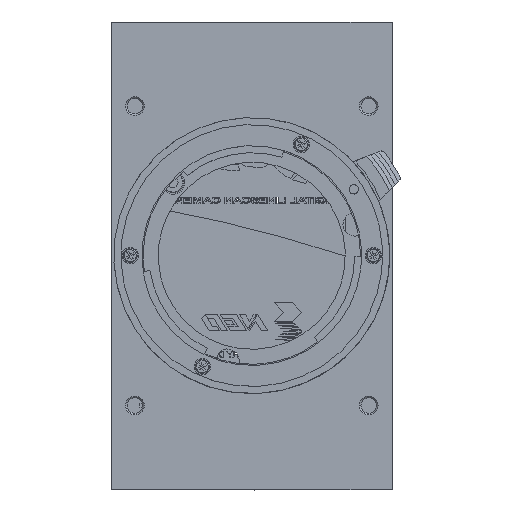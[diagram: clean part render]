
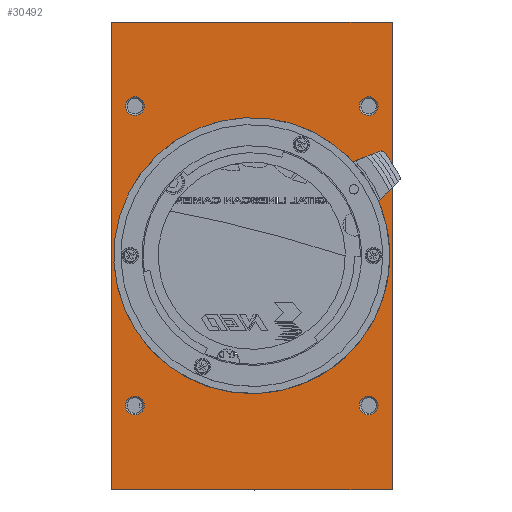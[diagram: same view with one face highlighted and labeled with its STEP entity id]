
A CAD part, top view. The second image highlights one B-rep face of the part: STEP entity #30492.
In plain terms, the highlighted planar face has unit normal (0, 0, 1).
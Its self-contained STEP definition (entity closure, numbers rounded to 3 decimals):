
#1716 = DIRECTION ( 'NONE',  ( 1., 0., 0. ) ) ;
#2445 = CARTESIAN_POINT ( 'NONE',  ( 30., 50., 0. ) ) ;
#2947 = CIRCLE ( 'NONE', #128700, 2. ) ;
#7607 = EDGE_CURVE ( 'NONE', #120599, #138446, #125887, .T. ) ;
#8648 = EDGE_LOOP ( 'NONE', ( #22938 ) ) ;
#12451 = EDGE_LOOP ( 'NONE', ( #140629 ) ) ;
#20736 = CARTESIAN_POINT ( 'NONE',  ( 27., 32., 0. ) ) ;
#22938 = ORIENTED_EDGE ( 'NONE', *, *, #49601, .F. ) ;
#24046 = EDGE_CURVE ( 'NONE', #90185, #90185, #147567, .T. ) ;
#24138 = ORIENTED_EDGE ( 'NONE', *, *, #37824, .F. ) ;
#24756 = DIRECTION ( 'NONE',  ( 0., 0., 1. ) ) ;
#25803 = AXIS2_PLACEMENT_3D ( 'NONE', #84736, #48367, #35667 ) ;
#27648 = VERTEX_POINT ( 'NONE', #118131 ) ;
#30490 = PLANE ( 'NONE',  #159837 ) ;
#30492 = ADVANCED_FACE ( 'NONE', ( #41517, #122331, #104619, #55241, #108535, #147953 ), #30490, .F. ) ;
#31726 = DIRECTION ( 'NONE',  ( 0., 0., 1. ) ) ;
#33249 = EDGE_LOOP ( 'NONE', ( #24138 ) ) ;
#34978 = AXIS2_PLACEMENT_3D ( 'NONE', #81949, #31726, #131561 ) ;
#35023 = ORIENTED_EDGE ( 'NONE', *, *, #41552, .T. ) ;
#35667 = DIRECTION ( 'NONE',  ( 1., 0., 0. ) ) ;
#35863 = CARTESIAN_POINT ( 'NONE',  ( -25., 32., 0. ) ) ;
#37824 = EDGE_CURVE ( 'NONE', #72522, #72522, #138845, .T. ) ;
#39132 = EDGE_CURVE ( 'NONE', #135629, #135629, #61989, .T. ) ;
#40901 = VERTEX_POINT ( 'NONE', #20736 ) ;
#41517 = FACE_BOUND ( 'NONE', #12451, .T. ) ;
#41552 = EDGE_CURVE ( 'NONE', #86802, #27648, #144394, .T. ) ;
#48367 = DIRECTION ( 'NONE',  ( 0., 0., 1. ) ) ;
#49601 = EDGE_CURVE ( 'NONE', #40901, #40901, #2947, .T. ) ;
#51182 = ORIENTED_EDGE ( 'NONE', *, *, #149147, .T. ) ;
#54178 = CARTESIAN_POINT ( 'NONE',  ( -30., -50., 0. ) ) ;
#55241 = FACE_BOUND ( 'NONE', #33249, .T. ) ;
#56541 = EDGE_CURVE ( 'NONE', #138446, #86802, #124667, .T. ) ;
#57125 = EDGE_LOOP ( 'NONE', ( #134046 ) ) ;
#57238 = CARTESIAN_POINT ( 'NONE',  ( -25., -32., 0. ) ) ;
#59962 = CARTESIAN_POINT ( 'NONE',  ( 27., -32., 0. ) ) ;
#61989 = CIRCLE ( 'NONE', #114675, 2. ) ;
#64036 = DIRECTION ( 'NONE',  ( 1., 0., 0. ) ) ;
#67995 = ORIENTED_EDGE ( 'NONE', *, *, #7607, .T. ) ;
#69430 = VECTOR ( 'NONE', #141336, 1000. ) ;
#69950 = CARTESIAN_POINT ( 'NONE',  ( -23., 32., 0. ) ) ;
#71394 = CARTESIAN_POINT ( 'NONE',  ( 30., -50., 0. ) ) ;
#72522 = VERTEX_POINT ( 'NONE', #69950 ) ;
#73411 = AXIS2_PLACEMENT_3D ( 'NONE', #35863, #24756, #113040 ) ;
#81949 = CARTESIAN_POINT ( 'NONE',  ( 0., 0., 0. ) ) ;
#83401 = DIRECTION ( 'NONE',  ( 0., 0., -1. ) ) ;
#84736 = CARTESIAN_POINT ( 'NONE',  ( 25., -32., 0. ) ) ;
#86802 = VERTEX_POINT ( 'NONE', #2445 ) ;
#90185 = VERTEX_POINT ( 'NONE', #94690 ) ;
#93682 = EDGE_CURVE ( 'NONE', #139442, #139442, #115969, .T. ) ;
#94320 = VECTOR ( 'NONE', #64036, 1000. ) ;
#94690 = CARTESIAN_POINT ( 'NONE',  ( 27.8, 0., 0. ) ) ;
#103221 = CARTESIAN_POINT ( 'NONE',  ( 25., 32., 0. ) ) ;
#104619 = FACE_BOUND ( 'NONE', #57125, .T. ) ;
#106873 = DIRECTION ( 'NONE',  ( 0., 0., 1. ) ) ;
#108169 = VECTOR ( 'NONE', #155595, 1000. ) ;
#108535 = FACE_BOUND ( 'NONE', #126744, .T. ) ;
#113040 = DIRECTION ( 'NONE',  ( 1., 0., 0. ) ) ;
#114675 = AXIS2_PLACEMENT_3D ( 'NONE', #57238, #106873, #143846 ) ;
#114688 = VECTOR ( 'NONE', #141585, 1000. ) ;
#115137 = CARTESIAN_POINT ( 'NONE',  ( 30., -50., 0. ) ) ;
#115969 = CIRCLE ( 'NONE', #25803, 2. ) ;
#118131 = CARTESIAN_POINT ( 'NONE',  ( -30., 50., 0. ) ) ;
#120599 = VERTEX_POINT ( 'NONE', #145946 ) ;
#122287 = CARTESIAN_POINT ( 'NONE',  ( -23., -32., 0. ) ) ;
#122331 = FACE_BOUND ( 'NONE', #8648, .T. ) ;
#124667 = LINE ( 'NONE', #115137, #114688 ) ;
#125785 = CARTESIAN_POINT ( 'NONE',  ( -30., -50., 0. ) ) ;
#125887 = LINE ( 'NONE', #125785, #94320 ) ;
#126744 = EDGE_LOOP ( 'NONE', ( #149150 ) ) ;
#128700 = AXIS2_PLACEMENT_3D ( 'NONE', #103221, #153965, #1716 ) ;
#131561 = DIRECTION ( 'NONE',  ( 1., 0., 0. ) ) ;
#134046 = ORIENTED_EDGE ( 'NONE', *, *, #39132, .F. ) ;
#135629 = VERTEX_POINT ( 'NONE', #122287 ) ;
#135881 = LINE ( 'NONE', #54178, #108169 ) ;
#138446 = VERTEX_POINT ( 'NONE', #71394 ) ;
#138845 = CIRCLE ( 'NONE', #73411, 2. ) ;
#139442 = VERTEX_POINT ( 'NONE', #59962 ) ;
#139733 = CARTESIAN_POINT ( 'NONE',  ( -30., 50., 0. ) ) ;
#140629 = ORIENTED_EDGE ( 'NONE', *, *, #93682, .F. ) ;
#141336 = DIRECTION ( 'NONE',  ( -1., 0., 0. ) ) ;
#141585 = DIRECTION ( 'NONE',  ( 0., 1., 0. ) ) ;
#143846 = DIRECTION ( 'NONE',  ( 1., 0., 0. ) ) ;
#144084 = CARTESIAN_POINT ( 'NONE',  ( 0., 0., 0. ) ) ;
#144394 = LINE ( 'NONE', #139733, #69430 ) ;
#145946 = CARTESIAN_POINT ( 'NONE',  ( -30., -50., 0. ) ) ;
#147567 = CIRCLE ( 'NONE', #34978, 27.8 ) ;
#147953 = FACE_OUTER_BOUND ( 'NONE', #159161, .T. ) ;
#149147 = EDGE_CURVE ( 'NONE', #27648, #120599, #135881, .T. ) ;
#149150 = ORIENTED_EDGE ( 'NONE', *, *, #24046, .F. ) ;
#153965 = DIRECTION ( 'NONE',  ( 0., 0., 1. ) ) ;
#155595 = DIRECTION ( 'NONE',  ( 0., -1., 0. ) ) ;
#157025 = ORIENTED_EDGE ( 'NONE', *, *, #56541, .T. ) ;
#159161 = EDGE_LOOP ( 'NONE', ( #157025, #35023, #51182, #67995 ) ) ;
#159468 = DIRECTION ( 'NONE',  ( -1., 0., 0. ) ) ;
#159837 = AXIS2_PLACEMENT_3D ( 'NONE', #144084, #83401, #159468 ) ;
